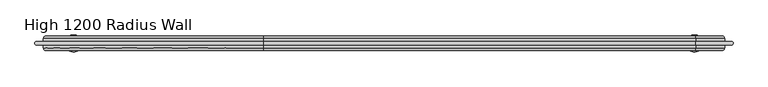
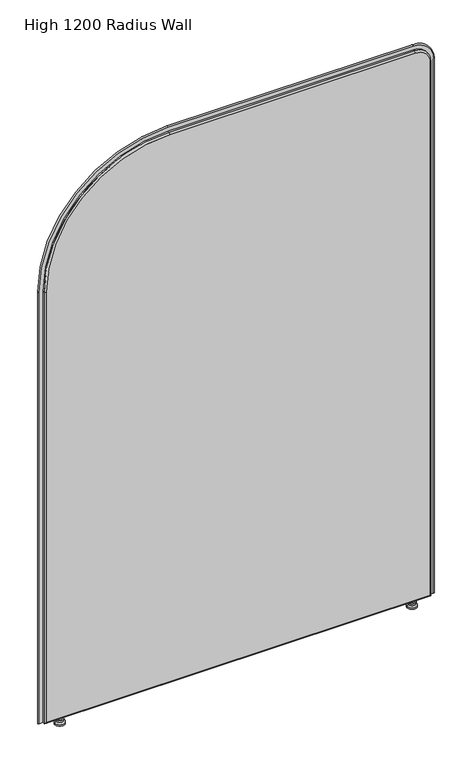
"""IFC4 building model written with IfcOpenShell, lengths in millimetres: furniture geometry, DBLTD_Sixteen3_PrivacyScreens_Artus_ArchRadius : High 1200 Radius Wall."""

from ifc_helpers import new_model, si_unit, point, frame, origin, place, context, project, spatial, polyline, circle_curve, ellipse_curve, trimmed, source, transform, mapped, element, save
from ifc_brep_helpers import plane_surface, cylinder_surface, revolved_surface, advanced_brep


def high_1200_radius_wall_e7a14534(model_context):
    return source(origin(), model_context, "Body", "AdvancedBrep", [
        advanced_brep(
        [(542.2938623, 820.0, 22.0), (549.2938623, 820.0, 22.0), (535.2938623, 820.0, 22.0), (549.2938623, 820.0, 15.0), (535.2938623, 820.0, 15.0), (553.744562, 820.0, 15.0), (530.8431626, 820.0, 15.0), (553.744562, 820.0, 10.0), (530.8431626, 820.0, 10.0), (557.2938623, 820.0, 5.0), (527.2938623, 820.0, 5.0), (557.2938623, 820.0, 0.0), (527.2938623, 820.0, 0.0), (542.2938623, 820.0, 0.0)],
        [
            (0, 1),
            (1, 2, circle_curve(frame((542.2938623, 820.0, 22.0), z_axis=(0.0, 0.0, 1.0), x_axis=(1.0, 0.0, 0.0)), 7.0)),
            (2, 0),
            (2, 1, circle_curve(frame((542.2938623, 820.0, 22.0), z_axis=(0.0, 0.0, 1.0), x_axis=(1.0, 0.0, 0.0)), 7.0)),
            (1, 3),
            (3, 4, circle_curve(frame((542.2938623, 820.0, 15.0), z_axis=(0.0, 0.0, 1.0), x_axis=(1.0, 0.0, 0.0)), 7.0)),
            (4, 2),
            (4, 3, circle_curve(frame((542.2938623, 820.0, 15.0), z_axis=(0.0, 0.0, 1.0), x_axis=(1.0, 0.0, 0.0)), 7.0)),
            (3, 5),
            (5, 6, circle_curve(frame((542.2938623, 820.0, 15.0), z_axis=(0.0, 0.0, 1.0), x_axis=(1.0, 0.0, 0.0)), 11.4506997)),
            (6, 4),
            (6, 5, circle_curve(frame((542.2938623, 820.0, 15.0), z_axis=(0.0, 0.0, 1.0), x_axis=(1.0, 0.0, 0.0)), 11.4506997)),
            (5, 7),
            (7, 8, circle_curve(frame((542.2938623, 820.0, 10.0), z_axis=(0.0, 0.0, 1.0), x_axis=(1.0, 0.0, 0.0)), 11.4506997)),
            (8, 6),
            (8, 7, circle_curve(frame((542.2938623, 820.0, 10.0), z_axis=(0.0, 0.0, 1.0), x_axis=(1.0, 0.0, 0.0)), 11.4506997)),
            (7, 9),
            (9, 10, circle_curve(frame((542.2938623, 820.0, 5.0), z_axis=(0.0, 0.0, 1.0), x_axis=(1.0, 0.0, 0.0)), 15.0)),
            (10, 8),
            (10, 9, circle_curve(frame((542.2938623, 820.0, 5.0), z_axis=(0.0, 0.0, 1.0), x_axis=(1.0, 0.0, 0.0)), 15.0)),
            (9, 11),
            (11, 12, circle_curve(frame((542.2938623, 820.0, 0.0), z_axis=(0.0, 0.0, 1.0), x_axis=(1.0, 0.0, 0.0)), 15.0)),
            (12, 10),
            (12, 11, circle_curve(frame((542.2938623, 820.0, 0.0), z_axis=(0.0, 0.0, 1.0), x_axis=(1.0, 0.0, 0.0)), 15.0)),
            (11, 13),
            (13, 12),
        ],
        [
            plane_surface(frame((542.2938623, 820.0, 22.0), z_axis=(0.0, 0.0, 1.0), x_axis=(1.0, 0.0, 0.0))),
            cylinder_surface(frame((542.2938623, 820.0, 5.0), z_axis=(0.0, 0.0, 1.0), x_axis=(1.0, 0.0, 0.0)), 7.0),
            plane_surface(frame((542.2938623, 820.0, 15.0), z_axis=(0.0, 0.0, 1.0), x_axis=(1.0, 0.0, 0.0))),
            cylinder_surface(frame((542.2938623, 820.0, 5.0), z_axis=(0.0, 0.0, 1.0), x_axis=(1.0, 0.0, 0.0)), 11.4506997),
            revolved_surface(polyline([(557.2938623, 820.0, 5.0), (553.744562, 820.0, 10.0)]), (542.2938623, 820.0, 5.0), (0.0, 0.0, 1.0)),
            cylinder_surface(frame((542.2938623, 820.0, 5.0), z_axis=(0.0, 0.0, 1.0), x_axis=(1.0, 0.0, 0.0)), 15.0),
            plane_surface(frame((542.2938623, 820.0, 0.0), z_axis=(0.0, 0.0, -1.0), x_axis=(1.0, 0.0, 0.0))),
        ],
        [
            (0, [[1, 2, 3]]),
            (0, [[-3, 4, -1]]),
            (1, [[-2, 5, 6, 7]]),
            (1, [[-4, -7, 8, -5]]),
            (2, [[-6, 9, 10, 11]]),
            (2, [[-8, -11, 12, -9]]),
            (3, [[-10, 13, 14, 15]]),
            (3, [[-12, -15, 16, -13]]),
            (4, [[-14, 17, 18, 19]]),
            (4, [[-16, -19, 20, -17]]),
            (5, [[-18, 21, 22, 23]]),
            (5, [[-20, -23, 24, -21]]),
            (6, [[-22, 25, 26]]),
            (6, [[-24, -26, -25]]),
        ],
    ),
        advanced_brep(
        [(-535.2938623, 820.0, 22.0), (-549.2938623, 820.0, 22.0), (-542.2938623, 820.0, 22.0), (-535.2938623, 820.0, 15.0), (-549.2938623, 820.0, 15.0), (-530.8431626, 820.0, 15.0), (-553.744562, 820.0, 15.0), (-530.8431626, 820.0, 10.0), (-553.744562, 820.0, 10.0), (-527.2938623, 820.0, 5.0), (-557.2938623, 820.0, 5.0), (-527.2938623, 820.0, 0.0), (-557.2938623, 820.0, 0.0), (-542.2938623, 820.0, 0.0)],
        [
            (0, 1, circle_curve(frame((-542.2938623, 820.0, 22.0), z_axis=(0.0, 0.0, 1.0), x_axis=(-1.0, 0.0, 0.0)), 7.0)),
            (1, 2),
            (2, 0),
            (1, 0, circle_curve(frame((-542.2938623, 820.0, 22.0), z_axis=(0.0, 0.0, 1.0), x_axis=(-1.0, 0.0, 0.0)), 7.0)),
            (3, 4, circle_curve(frame((-542.2938623, 820.0, 15.0), z_axis=(0.0, 0.0, 1.0), x_axis=(-1.0, 0.0, 0.0)), 7.0)),
            (4, 1),
            (0, 3),
            (4, 3, circle_curve(frame((-542.2938623, 820.0, 15.0), z_axis=(0.0, 0.0, 1.0), x_axis=(-1.0, 0.0, 0.0)), 7.0)),
            (5, 6, circle_curve(frame((-542.2938623, 820.0, 15.0), z_axis=(0.0, 0.0, 1.0), x_axis=(-1.0, 0.0, 0.0)), 11.4506997)),
            (6, 4),
            (3, 5),
            (6, 5, circle_curve(frame((-542.2938623, 820.0, 15.0), z_axis=(0.0, 0.0, 1.0), x_axis=(-1.0, 0.0, 0.0)), 11.4506997)),
            (7, 8, circle_curve(frame((-542.2938623, 820.0, 10.0), z_axis=(0.0, 0.0, 1.0), x_axis=(-1.0, 0.0, 0.0)), 11.4506997)),
            (8, 6),
            (5, 7),
            (8, 7, circle_curve(frame((-542.2938623, 820.0, 10.0), z_axis=(0.0, 0.0, 1.0), x_axis=(-1.0, 0.0, 0.0)), 11.4506997)),
            (9, 10, circle_curve(frame((-542.2938623, 820.0, 5.0), z_axis=(0.0, 0.0, 1.0), x_axis=(-1.0, 0.0, 0.0)), 15.0)),
            (10, 8),
            (7, 9),
            (10, 9, circle_curve(frame((-542.2938623, 820.0, 5.0), z_axis=(0.0, 0.0, 1.0), x_axis=(-1.0, 0.0, 0.0)), 15.0)),
            (11, 12, circle_curve(frame((-542.2938623, 820.0, 0.0), z_axis=(0.0, 0.0, 1.0), x_axis=(-1.0, 0.0, 0.0)), 15.0)),
            (12, 10),
            (9, 11),
            (12, 11, circle_curve(frame((-542.2938623, 820.0, 0.0), z_axis=(0.0, 0.0, 1.0), x_axis=(-1.0, 0.0, 0.0)), 15.0)),
            (13, 12),
            (11, 13),
        ],
        [
            plane_surface(frame((-542.2938623, 820.0, 22.0), z_axis=(0.0, 0.0, 1.0), x_axis=(-1.0, 0.0, 0.0))),
            cylinder_surface(frame((-542.2938623, 820.0, 5.0), z_axis=(0.0, 0.0, -1.0), x_axis=(-1.0, 0.0, 0.0)), 7.0),
            plane_surface(frame((-542.2938623, 820.0, 15.0), z_axis=(0.0, 0.0, 1.0), x_axis=(-1.0, 0.0, 0.0))),
            cylinder_surface(frame((-542.2938623, 820.0, 5.0), z_axis=(0.0, 0.0, -1.0), x_axis=(-1.0, 0.0, 0.0)), 11.4506997),
            revolved_surface(polyline([(-553.744562, 820.0, 10.0), (-557.2938623, 820.0, 5.0)]), (-542.2938623, 820.0, 5.0), (0.0, 0.0, -1.0)),
            cylinder_surface(frame((-542.2938623, 820.0, 5.0), z_axis=(0.0, 0.0, -1.0), x_axis=(-1.0, 0.0, 0.0)), 15.0),
            plane_surface(frame((-542.2938623, 820.0, 0.0), z_axis=(0.0, 0.0, -1.0), x_axis=(-1.0, 0.0, 0.0))),
        ],
        [
            (0, [[1, 2, 3]]),
            (0, [[4, -3, -2]]),
            (1, [[5, 6, -1, 7]]),
            (1, [[8, -7, -4, -6]]),
            (2, [[9, 10, -5, 11]]),
            (2, [[12, -11, -8, -10]]),
            (3, [[13, 14, -9, 15]]),
            (3, [[16, -15, -12, -14]]),
            (4, [[17, 18, -13, 19]]),
            (4, [[20, -19, -16, -18]]),
            (5, [[21, 22, -17, 23]]),
            (5, [[24, -23, -20, -22]]),
            (6, [[25, -21, 26]]),
            (6, [[-26, -24, -25]]),
        ],
    ),
        advanced_brep(
        [(-590.0, 807.0, 27.0), (590.0, 807.0, 27.0), (590.0, 807.0, 1760.0), (545.0, 807.0, 1805.0), (-210.0, 807.0, 1805.0), (-590.0, 807.0, 1425.0), (590.0, 833.0, 27.0), (-590.0, 833.0, 27.0), (-590.0, 833.0, 1425.0), (-210.0, 833.0, 1805.0), (545.0, 833.0, 1805.0), (590.0, 833.0, 1760.0), (545.0, 811.9999957, 1810.0), (545.0, 828.0, 1810.0), (-210.0, 828.0, 1810.0), (-210.0, 812.0, 1810.0), (-595.0, 828.0, 1425.0), (-595.0, 811.9999945, 1425.0), (-595.0, 828.0, 22.0), (-595.0, 812.0, 22.0), (595.0, 828.0, 22.0), (595.0, 812.0, 22.0), (595.0, 828.0, 1760.0), (595.0, 812.0, 1760.0)],
        [
            (0, 1),
            (1, 2),
            (2, 3, circle_curve(frame((545.0, 807.0, 1760.0), z_axis=(0.0, -1.0, 0.0), x_axis=(1.0, 0.0, 0.0)), 45.0)),
            (3, 4),
            (4, 5, circle_curve(frame((-210.0, 807.0, 1425.0), z_axis=(0.0, -1.0, 0.0), x_axis=(0.0, 0.0, 1.0)), 380.0)),
            (5, 0),
            (6, 7),
            (7, 8),
            (8, 9, circle_curve(frame((-210.0, 833.0, 1425.0), z_axis=(0.0, 1.0, 0.0), x_axis=(0.0, 0.0, 1.0)), 380.0)),
            (9, 10),
            (10, 11, circle_curve(frame((545.0, 833.0, 1760.0), z_axis=(0.0, 1.0, 0.0), x_axis=(1.0, 0.0, 0.0)), 45.0)),
            (11, 6),
            (12, 13),
            (13, 14),
            (14, 15),
            (15, 12),
            (14, 16, circle_curve(frame((-210.0, 828.0, 1425.0), z_axis=(0.0, -1.0, 0.0), x_axis=(1.0, 0.0, 0.0)), 385.0)),
            (16, 17),
            (17, 15, circle_curve(frame((-210.0, 812.0, 1425.0), z_axis=(0.0, 1.0, 0.0), x_axis=(1.0, 0.0, 0.0)), 385.0)),
            (16, 18),
            (18, 19),
            (19, 17),
            (18, 20),
            (20, 21),
            (21, 19),
            (20, 22),
            (22, 23),
            (23, 21),
            (12, 23, circle_curve(frame((545.0, 812.0, 1760.0), z_axis=(0.0, 1.0, 0.0), x_axis=(1.0, 0.0, 0.0)), 50.0)),
            (22, 13, circle_curve(frame((545.0, 828.0, 1760.0), z_axis=(0.0, -1.0, 0.0), x_axis=(1.0, 0.0, 0.0)), 50.0)),
            (21, 1, ellipse_curve(frame((590.0, 812.0, 27.0), z_axis=(-0.7071067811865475, 0.0, -0.7071067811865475), x_axis=(0.7071067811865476, 0.0, -0.7071067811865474)), 7.0710678, 5.0)),
            (0, 19, ellipse_curve(frame((-590.0, 812.0, 27.0), z_axis=(0.7071067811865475, 0.0, -0.7071067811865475), x_axis=(0.7071067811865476, 0.0, 0.7071067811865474)), 7.0710678, 5.0)),
            (6, 20, ellipse_curve(frame((590.0, 828.0, 27.0), z_axis=(-0.7071067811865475, 0.0, -0.7071067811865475), x_axis=(0.7071067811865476, 0.0, -0.7071067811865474)), 7.0710678, 5.0)),
            (18, 7, ellipse_curve(frame((-590.0, 828.0, 27.0), z_axis=(0.7071067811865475, 0.0, -0.7071067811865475), x_axis=(0.7071067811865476, 0.0, 0.7071067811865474)), 7.0710678, 5.0)),
            (23, 2, circle_curve(frame((590.0, 812.0, 1760.0), z_axis=(0.0, 0.0, -1.0), x_axis=(1.0, 0.0, 0.0)), 5.0)),
            (11, 22, circle_curve(frame((590.0, 828.0, 1760.0), z_axis=(0.0, 0.0, -1.0), x_axis=(1.0, 0.0, 0.0)), 5.0)),
            (12, 3, circle_curve(frame((545.0, 812.0, 1805.0), z_axis=(1.0, 0.0, 0.0), x_axis=(0.0, 0.0, 1.0)), 5.0)),
            (10, 13, circle_curve(frame((545.0, 828.0, 1805.0), z_axis=(1.0, 0.0, 0.0), x_axis=(0.0, 0.0, 1.0)), 5.0)),
            (15, 4, circle_curve(frame((-210.0, 812.0, 1805.0), z_axis=(1.0, 0.0, 0.0), x_axis=(0.0, 0.0, 1.0)), 5.0)),
            (9, 14, circle_curve(frame((-210.0, 828.0, 1805.0), z_axis=(1.0, 0.0, 0.0), x_axis=(0.0, 0.0, 1.0)), 5.0)),
            (17, 5, circle_curve(frame((-590.0, 812.0, 1425.0), z_axis=(0.0, 0.0, 1.0), x_axis=(-1.0, 0.0, 0.0)), 5.0)),
            (8, 16, circle_curve(frame((-590.0, 828.0, 1425.0), z_axis=(0.0, 0.0, 1.0), x_axis=(-1.0, 0.0, 0.0)), 5.0)),
        ],
        [
            plane_surface(frame((-210.0, 807.0, 1810.0), z_axis=(0.0, -1.0, 0.0), x_axis=(-1.0, 0.0, 0.0))),
            plane_surface(frame((-210.0, 833.0, 1810.0), z_axis=(0.0, 1.0, 0.0), x_axis=(1.0, 0.0, 0.0))),
            plane_surface(frame((545.0, 807.0, 1810.0), z_axis=(0.0, 0.0, 1.0), x_axis=(0.0, 1.0, 0.0))),
            cylinder_surface(frame((-210.0, 833.0, 1425.0), z_axis=(0.0, -1.0, 0.0), x_axis=(1.0, 0.0, 0.0)), 385.0),
            plane_surface(frame((-595.0, 807.0, 1425.0), z_axis=(-1.0, 0.0, 0.0), x_axis=(0.0, 1.0, 0.0))),
            plane_surface(frame((-595.0, 807.0, 22.0), z_axis=(0.0, 0.0, -1.0), x_axis=(0.0, 1.0, 0.0))),
            plane_surface(frame((595.0, 807.0, 22.0), z_axis=(1.0, 0.0, 0.0), x_axis=(0.0, 1.0, 0.0))),
            cylinder_surface(frame((545.0, 833.0, 1760.0), z_axis=(0.0, -1.0, 0.0), x_axis=(1.0, 0.0, 0.0)), 50.0),
            cylinder_surface(frame((-595.0, 812.0, 27.0), z_axis=(1.0, 0.0, 0.0), x_axis=(0.0, 0.0, -1.0)), 5.0),
            cylinder_surface(frame((-595.0, 828.0, 27.0), z_axis=(1.0, 0.0, 0.0), x_axis=(0.0, 0.0, -1.0)), 5.0),
            cylinder_surface(frame((590.0, 812.0, 22.0), z_axis=(0.0, 0.0, 1.0), x_axis=(1.0, 0.0, 0.0)), 5.0),
            cylinder_surface(frame((590.0, 828.0, 22.0), z_axis=(0.0, 0.0, 1.0), x_axis=(1.0, 0.0, 0.0)), 5.0),
            revolved_surface(trimmed(ellipse_curve(frame((590.0, 812.0, 1760.0), z_axis=(0.0, 0.0, -1.0), x_axis=(1.0, 0.0, 0.0)), 5.0, 5.0), [point((595.0, 812.0, 1760.0))], [point((590.0, 807.0, 1760.0))], True, "CARTESIAN"), (545.0, 807.0, 1760.0), (0.0, -1.0, 0.0)),
            revolved_surface(trimmed(ellipse_curve(frame((590.0, 828.0, 1760.0), z_axis=(0.0, 0.0, -1.0), x_axis=(1.0, 0.0, 0.0)), 5.0, 5.0), [point((590.0, 833.0, 1760.0))], [point((595.0, 828.0, 1760.0))], True, "CARTESIAN"), (545.0, 807.0, 1760.0), (0.0, -1.0, 0.0)),
            cylinder_surface(frame((545.0, 812.0, 1805.0), z_axis=(-1.0, 0.0, 0.0), x_axis=(0.0, 0.0, 1.0)), 5.0),
            cylinder_surface(frame((545.0, 828.0, 1805.0), z_axis=(-1.0, 0.0, 0.0), x_axis=(0.0, 0.0, 1.0)), 5.0),
            revolved_surface(trimmed(ellipse_curve(frame((-210.0, 812.0, 1805.0), z_axis=(1.0, 0.0, 0.0), x_axis=(0.0, 0.0, 1.0)), 5.0, 5.0), [point((-210.0, 812.0, 1810.0))], [point((-210.0, 807.0, 1805.0))], True, "CARTESIAN"), (-210.0, 807.0, 1425.0), (0.0, -1.0, 0.0)),
            revolved_surface(trimmed(ellipse_curve(frame((-210.0, 828.0, 1805.0), z_axis=(1.0, 0.0, 0.0), x_axis=(0.0, 0.0, 1.0)), 5.0, 5.0), [point((-210.0, 833.0, 1805.0))], [point((-210.0, 828.0, 1810.0))], True, "CARTESIAN"), (-210.0, 807.0, 1425.0), (0.0, -1.0, 0.0)),
            cylinder_surface(frame((-590.0, 812.0, 1425.0), z_axis=(0.0, 0.0, -1.0), x_axis=(-1.0, 0.0, 0.0)), 5.0),
            cylinder_surface(frame((-590.0, 828.0, 1425.0), z_axis=(0.0, 0.0, -1.0), x_axis=(-1.0, 0.0, 0.0)), 5.0),
        ],
        [
            (0, [[1, 2, 3, 4, 5, 6]]),
            (1, [[7, 8, 9, 10, 11, 12]]),
            (2, [[13, 14, 15, 16]]),
            (3, [[-15, 17, 18, 19]]),
            (4, [[-18, 20, 21, 22]]),
            (5, [[-21, 23, 24, 25]]),
            (6, [[-24, 26, 27, 28]]),
            (7, [[-13, 29, -27, 30]]),
            (8, [[31, -1, 32, -25]]),
            (9, [[33, -23, 34, -7]]),
            (10, [[-31, -28, 35, -2]]),
            (11, [[-33, -12, 36, -26]]),
            (12, [[-35, -29, 37, -3]]),
            (13, [[-36, -11, 38, -30]]),
            (14, [[-37, -16, 39, -4]]),
            (15, [[-38, -10, 40, -14]]),
            (16, [[-39, -19, 41, -5]]),
            (17, [[-40, -9, 42, -17]]),
            (18, [[-32, -6, -41, -22]]),
            (19, [[-34, -20, -42, -8]]),
        ],
    ),
        advanced_brep(
        [(606.9577057, 823.0, 22.0), (606.9577057, 817.0, 22.0), (595.0, 817.0, 22.0), (595.0, 823.0, 22.0), (606.9577057, 823.0, 1760.0), (606.9577057, 817.0, 1760.0), (545.0, 817.0, 1821.9577057), (-210.0, 817.0, 1821.9577057), (-606.9577057, 817.0, 1425.0), (-606.9577057, 817.0, 22.0), (-595.0, 817.0, 22.0), (-595.0, 817.0, 1425.0), (-210.0, 817.0, 1810.0), (545.0, 817.0, 1810.0), (595.0, 817.0, 1760.0), (595.0, 823.0, 1760.0), (545.0, 823.0, 1810.0), (-210.0, 823.0, 1810.0), (-595.0, 823.0, 1425.0), (-595.0, 823.0, 22.0), (-606.9577057, 823.0, 22.0), (-606.9577057, 823.0, 1425.0), (-210.0, 823.0, 1821.9577057), (545.0, 823.0, 1821.9577057)],
        [
            (0, 1, circle_curve(frame((606.9577057, 820.0, 22.0), z_axis=(0.0, 0.0, -1.0), x_axis=(1.0, 0.0, 0.0)), 3.0)),
            (1, 2),
            (2, 3),
            (3, 0),
            (0, 4),
            (4, 5, circle_curve(frame((606.9577057, 820.0, 1760.0), z_axis=(0.0, 0.0, -1.0), x_axis=(1.0, 0.0, 0.0)), 3.0)),
            (5, 1),
            (5, 6, circle_curve(frame((545.0, 817.0, 1760.0), z_axis=(0.0, -1.0, 0.0), x_axis=(1.0, 0.0, 0.0)), 61.9577057)),
            (6, 7),
            (7, 8, circle_curve(frame((-210.0, 817.0, 1425.0), z_axis=(0.0, -1.0, 0.0), x_axis=(0.0, 0.0, 1.0)), 396.9577057)),
            (8, 9),
            (9, 10),
            (10, 11),
            (11, 12, circle_curve(frame((-210.0, 817.0, 1425.0), z_axis=(0.0, 1.0, 0.0), x_axis=(0.0, 0.0, 1.0)), 385.0)),
            (12, 13),
            (13, 14, circle_curve(frame((545.0, 817.0, 1760.0), z_axis=(0.0, 1.0, 0.0), x_axis=(1.0, 0.0, 0.0)), 50.0)),
            (14, 2),
            (14, 15),
            (15, 3),
            (15, 16, circle_curve(frame((545.0, 823.0, 1760.0), z_axis=(0.0, -1.0, 0.0), x_axis=(1.0, 0.0, 0.0)), 50.0)),
            (16, 17),
            (17, 18, circle_curve(frame((-210.0, 823.0, 1425.0), z_axis=(0.0, -1.0, 0.0), x_axis=(0.0, 0.0, 1.0)), 385.0)),
            (18, 19),
            (19, 20),
            (20, 21),
            (21, 22, circle_curve(frame((-210.0, 823.0, 1425.0), z_axis=(0.0, 1.0, 0.0), x_axis=(0.0, 0.0, 1.0)), 396.9577057)),
            (22, 23),
            (23, 4, circle_curve(frame((545.0, 823.0, 1760.0), z_axis=(0.0, 1.0, 0.0), x_axis=(1.0, 0.0, 0.0)), 61.9577057)),
            (23, 6, circle_curve(frame((545.0, 820.0, 1821.9577057), z_axis=(1.0, 0.0, 0.0), x_axis=(0.0, 0.0, 1.0)), 3.0)),
            (13, 16),
            (22, 7, circle_curve(frame((-210.0, 820.0, 1821.9577057), z_axis=(1.0, 0.0, 0.0), x_axis=(0.0, 0.0, 1.0)), 3.0)),
            (12, 17),
            (21, 8, circle_curve(frame((-606.9577057, 820.0, 1425.0), z_axis=(0.0, 0.0, 1.0), x_axis=(-1.0, 0.0, 0.0)), 3.0)),
            (11, 18),
            (19, 10),
            (9, 20, circle_curve(frame((-606.9577057, 820.0, 22.0), z_axis=(0.0, 0.0, -1.0), x_axis=(-1.0, 0.0, 0.0)), 3.0)),
        ],
        [
            plane_surface(frame((595.0, 807.0, 22.0), z_axis=(0.0, 0.0, -1.0), x_axis=(1.0, 0.0, 0.0))),
            cylinder_surface(frame((606.9577057, 820.0, 22.0), z_axis=(0.0, 0.0, -1.0), x_axis=(1.0, 0.0, 0.0)), 3.0),
            plane_surface(frame((606.9577057, 817.0, 22.0), z_axis=(0.0, -1.0, 0.0), x_axis=(0.0, 0.0, 1.0))),
            plane_surface(frame((595.0, 817.0, 22.0), z_axis=(-1.0, 0.0, 0.0), x_axis=(0.0, 0.0, 1.0))),
            plane_surface(frame((595.0, 823.0, 22.0), z_axis=(0.0, 1.0, 0.0), x_axis=(0.0, 0.0, 1.0))),
            revolved_surface(trimmed(ellipse_curve(frame((606.9577057, 820.0, 1760.0), z_axis=(0.0, 0.0, -1.0), x_axis=(1.0, 0.0, 0.0)), 3.0, 3.0), [point((606.9577057, 823.0, 1760.0))], [point((606.9577057, 817.0, 1760.0))], True, "CARTESIAN"), (545.0, 807.0, 1760.0), (0.0, -1.0, 0.0)),
            revolved_surface(polyline([(595.0, 817.0, 1760.0), (595.0, 823.0, 1760.0)]), (545.0, 807.0, 1760.0), (0.0, -1.0, 0.0)),
            cylinder_surface(frame((545.0, 820.0, 1821.9577057), z_axis=(1.0, 0.0, 0.0), x_axis=(0.0, 0.0, 1.0)), 3.0),
            plane_surface(frame((545.0, 817.0, 1810.0), z_axis=(0.0, 0.0, -1.0), x_axis=(-1.0, 0.0, 0.0))),
            revolved_surface(trimmed(ellipse_curve(frame((-210.0, 820.0, 1821.9577057), z_axis=(1.0, 0.0, 0.0), x_axis=(0.0, 0.0, 1.0)), 3.0, 3.0), [point((-210.0, 823.0, 1821.9577057))], [point((-210.0, 817.0, 1821.9577057))], True, "CARTESIAN"), (-210.0, 807.0, 1425.0), (0.0, -1.0, 0.0)),
            revolved_surface(polyline([(-210.0, 817.0, 1810.0), (-210.0, 823.0, 1810.0)]), (-210.0, 807.0, 1425.0), (0.0, -1.0, 0.0)),
            plane_surface(frame((-595.0, 807.0, 22.0), z_axis=(0.0, 0.0, -1.0), x_axis=(-1.0, 0.0, 0.0))),
            cylinder_surface(frame((-606.9577057, 820.0, 1425.0), z_axis=(0.0, 0.0, 1.0), x_axis=(-1.0, 0.0, 0.0)), 3.0),
            plane_surface(frame((-595.0, 817.0, 1425.0), z_axis=(1.0, 0.0, 0.0), x_axis=(0.0, 0.0, -1.0))),
        ],
        [
            (0, [[1, 2, 3, 4]]),
            (1, [[-1, 5, 6, 7]]),
            (2, [[-2, -7, 8, 9, 10, 11, 12, 13, 14, 15, 16, 17]]),
            (3, [[-3, -17, 18, 19]]),
            (4, [[-4, -19, 20, 21, 22, 23, 24, 25, 26, 27, 28, -5]]),
            (5, [[-8, -6, -28, 29]]),
            (6, [[-20, -18, -16, 30]]),
            (7, [[-29, -27, 31, -9]]),
            (8, [[-30, -15, 32, -21]]),
            (9, [[-10, -31, -26, 33]]),
            (10, [[-22, -32, -14, 34]]),
            (11, [[-24, 35, -12, 36]]),
            (12, [[-33, -25, -36, -11]]),
            (13, [[-34, -13, -35, -23]]),
        ],
    ),
    ])


if __name__ == "__main__":
    model = new_model("IFC4")
    model_context = context("Model", 3, world=origin())
    ifc_project = project(units=[si_unit("LENGTHUNIT", "METRE", prefix="MILLI")], contexts=[model_context])
    site = spatial("IfcSite", under=ifc_project)
    building = spatial("IfcBuilding", under=site)
    placement = place(None, origin())
    high_1200_radius_wall_shape = high_1200_radius_wall_e7a14534(model_context)
    element("IfcFurniture", 1, ObjectType="DBLTD_Sixteen3_PrivacyScreens_Artus_ArchRadius : High 1200 Radius Wall", at=placement, inside=building, context=model_context, shape_type="MappedRepresentation", body=[
        mapped(high_1200_radius_wall_shape, transform((0.0, 0.0, 0.0), x_axis=(1.0, 0.0, 0.0), y_axis=(0.0, 1.0, 0.0), z_axis=(0.0, 0.0, 1.0))),
    ])
    save(model, "model.ifc")
